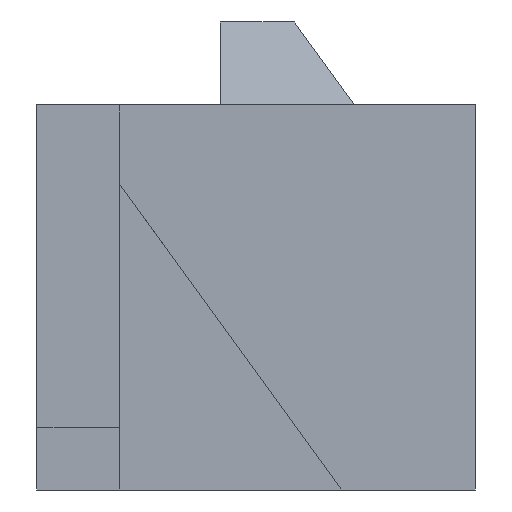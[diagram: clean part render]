
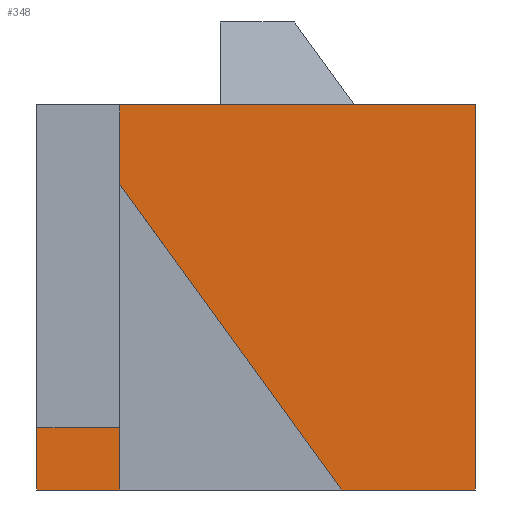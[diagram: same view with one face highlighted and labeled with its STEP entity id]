
A CAD part, left-side view. The second image highlights one B-rep face of the part: STEP entity #348.
In plain terms, the highlighted planar face has unit normal (-1, 0, 0).
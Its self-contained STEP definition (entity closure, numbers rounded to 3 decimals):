
#19=FACE_OUTER_BOUND('',#38,.T.);
#38=EDGE_LOOP('',(#237,#238,#239,#240,#241,#242,#243));
#57=LINE('',#498,#104);
#62=LINE('',#508,#109);
#63=LINE('',#510,#110);
#64=LINE('',#512,#111);
#65=LINE('',#514,#112);
#66=LINE('',#516,#113);
#67=LINE('',#517,#114);
#104=VECTOR('',#406,10.);
#109=VECTOR('',#413,10.);
#110=VECTOR('',#414,10.);
#111=VECTOR('',#415,10.);
#112=VECTOR('',#416,10.);
#113=VECTOR('',#417,10.);
#114=VECTOR('',#418,10.);
#150=VERTEX_POINT('',#494);
#152=VERTEX_POINT('',#497);
#156=VERTEX_POINT('',#507);
#157=VERTEX_POINT('',#509);
#158=VERTEX_POINT('',#511);
#159=VERTEX_POINT('',#513);
#160=VERTEX_POINT('',#515);
#183=EDGE_CURVE('',#150,#152,#57,.T.);
#188=EDGE_CURVE('',#150,#156,#62,.T.);
#189=EDGE_CURVE('',#157,#156,#63,.T.);
#190=EDGE_CURVE('',#158,#157,#64,.T.);
#191=EDGE_CURVE('',#159,#158,#65,.T.);
#192=EDGE_CURVE('',#159,#160,#66,.T.);
#193=EDGE_CURVE('',#160,#152,#67,.T.);
#237=ORIENTED_EDGE('',*,*,#188,.T.);
#238=ORIENTED_EDGE('',*,*,#189,.F.);
#239=ORIENTED_EDGE('',*,*,#190,.F.);
#240=ORIENTED_EDGE('',*,*,#191,.F.);
#241=ORIENTED_EDGE('',*,*,#192,.T.);
#242=ORIENTED_EDGE('',*,*,#193,.T.);
#243=ORIENTED_EDGE('',*,*,#183,.F.);
#330=PLANE('',#381);
#348=ADVANCED_FACE('',(#19),#330,.F.);
#381=AXIS2_PLACEMENT_3D('',#506,#411,#412);
#406=DIRECTION('',(0.,0.588,0.809));
#411=DIRECTION('center_axis',(1.,0.,0.));
#412=DIRECTION('ref_axis',(0.,-1.,0.));
#413=DIRECTION('',(0.,1.,0.));
#414=DIRECTION('',(0.,0.,1.));
#415=DIRECTION('',(0.,1.,0.));
#416=DIRECTION('',(0.,0.,-1.));
#417=DIRECTION('',(0.,1.,0.));
#418=DIRECTION('',(0.,0.,-1.));
#494=CARTESIAN_POINT('',(40.,38.438,21.853));
#497=CARTESIAN_POINT('',(40.,60.,51.531));
#498=CARTESIAN_POINT('',(40.,22.561,0.));
#506=CARTESIAN_POINT('Origin',(40.,60.,79.));
#507=CARTESIAN_POINT('',(40.,74.,21.853));
#508=CARTESIAN_POINT('',(40.,0.,21.853));
#509=CARTESIAN_POINT('',(40.,74.,0.));
#510=CARTESIAN_POINT('',(40.,74.,30.677));
#511=CARTESIAN_POINT('',(40.,0.,0.));
#512=CARTESIAN_POINT('',(40.,0.,0.));
#513=CARTESIAN_POINT('',(40.,0.,65.));
#514=CARTESIAN_POINT('',(40.,0.,59.25));
#515=CARTESIAN_POINT('',(40.,60.,65.));
#516=CARTESIAN_POINT('',(40.,30.,65.));
#517=CARTESIAN_POINT('',(40.,60.,79.));
